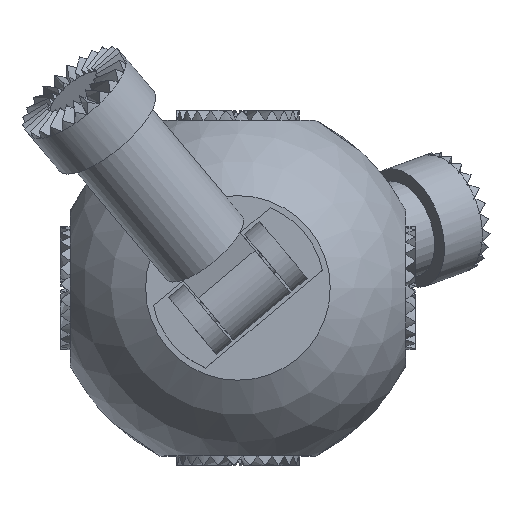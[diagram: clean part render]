
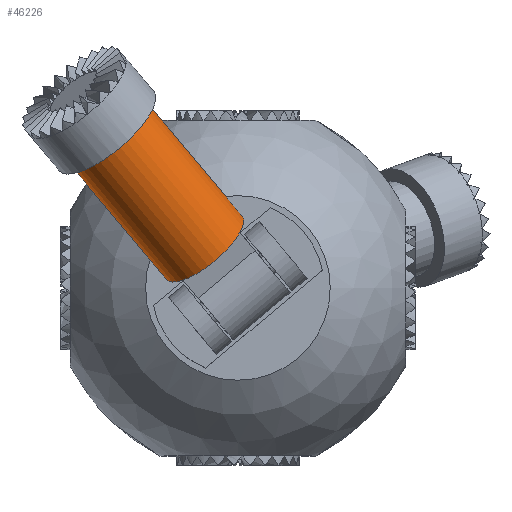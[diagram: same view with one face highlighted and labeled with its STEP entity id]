
A CAD part, top view. The second image highlights one B-rep face of the part: STEP entity #46226.
In plain terms, the highlighted cylindrical face has radius 4 mm (diameter 8 mm), a full revolution.
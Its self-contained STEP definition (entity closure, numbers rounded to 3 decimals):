
#46097 = PLANE('',#46098);
#46098 = AXIS2_PLACEMENT_3D('',#46099,#46100,#46101);
#46099 = CARTESIAN_POINT('',(-2.718,3.239,
    20.039));
#46100 = DIRECTION('',(-0.604,0.72,0.342));
#46101 = DIRECTION('',(0.766,0.643,0.)
  );
#46132 = EDGE_CURVE('',#46133,#46133,#46135,.T.);
#46133 = VERTEX_POINT('',#46134);
#46134 = CARTESIAN_POINT('',(0.346,5.81,
    20.039));
#46135 = SURFACE_CURVE('',#46136,(#46141,#46148),.PCURVE_S1.);
#46136 = CIRCLE('',#46137,4.);
#46137 = AXIS2_PLACEMENT_3D('',#46138,#46139,#46140);
#46138 = CARTESIAN_POINT('',(-2.718,3.239,
    20.039));
#46139 = DIRECTION('',(-0.604,0.72,0.342));
#46140 = DIRECTION('',(0.766,0.643,0.)
  );
#46141 = PCURVE('',#46097,#46142);
#46142 = DEFINITIONAL_REPRESENTATION('',(#46143),#46147);
#46143 = CIRCLE('',#46144,4.);
#46144 = AXIS2_PLACEMENT_2D('',#46145,#46146);
#46145 = CARTESIAN_POINT('',(0.,0.));
#46146 = DIRECTION('',(1.,0.));
#46147 = ( GEOMETRIC_REPRESENTATION_CONTEXT(2) 
PARAMETRIC_REPRESENTATION_CONTEXT() REPRESENTATION_CONTEXT('2D SPACE',''
  ) );
#46148 = PCURVE('',#46149,#46154);
#46149 = CYLINDRICAL_SURFACE('',#46150,4.);
#46150 = AXIS2_PLACEMENT_3D('',#46151,#46152,#46153);
#46151 = CARTESIAN_POINT('',(-2.718,3.239,
    20.039));
#46152 = DIRECTION('',(0.604,-0.72,-0.342));
#46153 = DIRECTION('',(0.766,0.643,0.)
  );
#46154 = DEFINITIONAL_REPRESENTATION('',(#46155),#46159);
#46155 = LINE('',#46156,#46157);
#46156 = CARTESIAN_POINT('',(-0.,0.));
#46157 = VECTOR('',#46158,1.);
#46158 = DIRECTION('',(-1.,0.));
#46159 = ( GEOMETRIC_REPRESENTATION_CONTEXT(2) 
PARAMETRIC_REPRESENTATION_CONTEXT() REPRESENTATION_CONTEXT('2D SPACE',''
  ) );
#46226 = ADVANCED_FACE('',(#46227),#46149,.T.);
#46227 = FACE_BOUND('',#46228,.F.);
#46228 = EDGE_LOOP('',(#46229,#46252,#46279,#46280));
#46229 = ORIENTED_EDGE('',*,*,#46230,.T.);
#46230 = EDGE_CURVE('',#46133,#46231,#46233,.T.);
#46231 = VERTEX_POINT('',#46232);
#46232 = CARTESIAN_POINT('',(-7.446,15.096,
    24.451));
#46233 = SEAM_CURVE('',#46234,(#46238,#46245),.PCURVE_S1.);
#46234 = LINE('',#46235,#46236);
#46235 = CARTESIAN_POINT('',(0.346,5.81,
    20.039));
#46236 = VECTOR('',#46237,1.);
#46237 = DIRECTION('',(-0.604,0.72,0.342));
#46238 = PCURVE('',#46149,#46239);
#46239 = DEFINITIONAL_REPRESENTATION('',(#46240),#46244);
#46240 = LINE('',#46241,#46242);
#46241 = CARTESIAN_POINT('',(-0.,0.));
#46242 = VECTOR('',#46243,1.);
#46243 = DIRECTION('',(-0.,-1.));
#46244 = ( GEOMETRIC_REPRESENTATION_CONTEXT(2) 
PARAMETRIC_REPRESENTATION_CONTEXT() REPRESENTATION_CONTEXT('2D SPACE',''
  ) );
#46245 = PCURVE('',#46149,#46246);
#46246 = DEFINITIONAL_REPRESENTATION('',(#46247),#46251);
#46247 = LINE('',#46248,#46249);
#46248 = CARTESIAN_POINT('',(-6.283,0.));
#46249 = VECTOR('',#46250,1.);
#46250 = DIRECTION('',(-0.,-1.));
#46251 = ( GEOMETRIC_REPRESENTATION_CONTEXT(2) 
PARAMETRIC_REPRESENTATION_CONTEXT() REPRESENTATION_CONTEXT('2D SPACE',''
  ) );
#46252 = ORIENTED_EDGE('',*,*,#46253,.T.);
#46253 = EDGE_CURVE('',#46231,#46231,#46254,.T.);
#46254 = SURFACE_CURVE('',#46255,(#46260,#46267),.PCURVE_S1.);
#46255 = CIRCLE('',#46256,4.);
#46256 = AXIS2_PLACEMENT_3D('',#46257,#46258,#46259);
#46257 = CARTESIAN_POINT('',(-10.51,12.525,
    24.451));
#46258 = DIRECTION('',(-0.604,0.72,0.342));
#46259 = DIRECTION('',(0.766,0.643,0.)
  );
#46260 = PCURVE('',#46149,#46261);
#46261 = DEFINITIONAL_REPRESENTATION('',(#46262),#46266);
#46262 = LINE('',#46263,#46264);
#46263 = CARTESIAN_POINT('',(-0.,-12.9));
#46264 = VECTOR('',#46265,1.);
#46265 = DIRECTION('',(-1.,0.));
#46266 = ( GEOMETRIC_REPRESENTATION_CONTEXT(2) 
PARAMETRIC_REPRESENTATION_CONTEXT() REPRESENTATION_CONTEXT('2D SPACE',''
  ) );
#46267 = PCURVE('',#46268,#46273);
#46268 = PLANE('',#46269);
#46269 = AXIS2_PLACEMENT_3D('',#46270,#46271,#46272);
#46270 = CARTESIAN_POINT('',(-10.51,12.525,
    24.451));
#46271 = DIRECTION('',(-0.604,0.72,0.342));
#46272 = DIRECTION('',(0.766,0.643,0.)
  );
#46273 = DEFINITIONAL_REPRESENTATION('',(#46274),#46278);
#46274 = CIRCLE('',#46275,4.);
#46275 = AXIS2_PLACEMENT_2D('',#46276,#46277);
#46276 = CARTESIAN_POINT('',(0.,0.));
#46277 = DIRECTION('',(1.,0.));
#46278 = ( GEOMETRIC_REPRESENTATION_CONTEXT(2) 
PARAMETRIC_REPRESENTATION_CONTEXT() REPRESENTATION_CONTEXT('2D SPACE',''
  ) );
#46279 = ORIENTED_EDGE('',*,*,#46230,.F.);
#46280 = ORIENTED_EDGE('',*,*,#46132,.F.);
